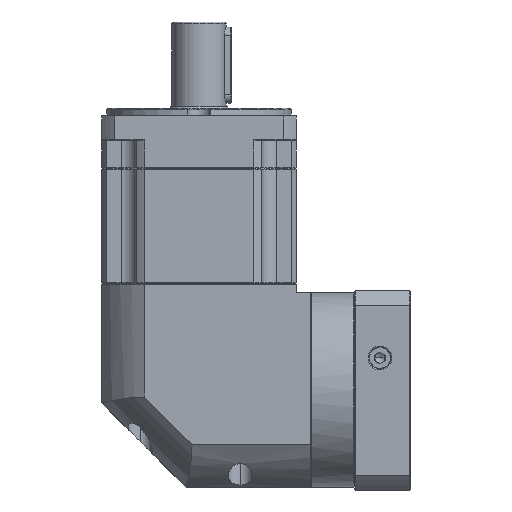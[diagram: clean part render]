
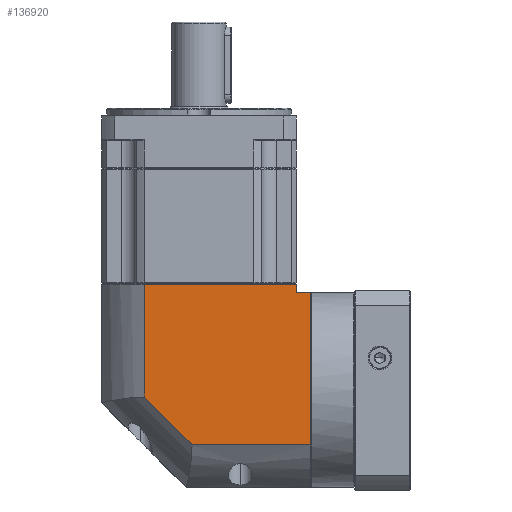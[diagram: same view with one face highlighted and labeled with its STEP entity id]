
A CAD part, left-side view. The second image highlights one B-rep face of the part: STEP entity #136920.
In plain terms, the highlighted planar face has unit normal (-1, 0, 0).
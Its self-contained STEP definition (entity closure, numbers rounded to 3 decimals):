
#3227 = CARTESIAN_POINT ( 'NONE',  ( 25.145, -18.587, 237.9 ) ) ;
#6134 = VECTOR ( 'NONE', #60761, 1000. ) ;
#6935 = EDGE_CURVE ( 'NONE', #161826, #92760, #61491, .T. ) ;
#9004 = EDGE_CURVE ( 'NONE', #49683, #89644, #114916, .T. ) ;
#10484 = LINE ( 'NONE', #70674, #153602 ) ;
#10804 = LINE ( 'NONE', #111931, #82350 ) ;
#13296 = CARTESIAN_POINT ( 'NONE',  ( 25.145, 96.413, 249.4 ) ) ;
#20734 = CARTESIAN_POINT ( 'NONE',  ( 25.145, 71.313, 176.338 ) ) ;
#26888 = DIRECTION ( 'NONE',  ( 0., 1., 0. ) ) ;
#28209 = VERTEX_POINT ( 'NONE', #157358 ) ;
#28617 = DIRECTION ( 'NONE',  ( 0., 1., 0. ) ) ;
#30928 = ORIENTED_EDGE ( 'NONE', *, *, #85369, .F. ) ;
#39859 = PLANE ( 'NONE',  #130512 ) ;
#40866 = DIRECTION ( 'NONE',  ( 0., 1., 0. ) ) ;
#42338 = ORIENTED_EDGE ( 'NONE', *, *, #122392, .T. ) ;
#44483 = CARTESIAN_POINT ( 'NONE',  ( 25.145, -26.987, 237.9 ) ) ;
#47280 = VERTEX_POINT ( 'NONE', #61847 ) ;
#48946 = CARTESIAN_POINT ( 'NONE',  ( 25.145, 96.413, 242.9 ) ) ;
#49683 = VERTEX_POINT ( 'NONE', #44483 ) ;
#50627 = ORIENTED_EDGE ( 'NONE', *, *, #9004, .T. ) ;
#52902 = CARTESIAN_POINT ( 'NONE',  ( 25.145, -26.987, 148. ) ) ;
#59490 = ORIENTED_EDGE ( 'NONE', *, *, #80736, .F. ) ;
#60761 = DIRECTION ( 'NONE',  ( 0., 0., 1. ) ) ;
#61491 = LINE ( 'NONE', #72555, #133008 ) ;
#61847 = CARTESIAN_POINT ( 'NONE',  ( 25.145, -18.587, 242.9 ) ) ;
#62919 = VERTEX_POINT ( 'NONE', #20734 ) ;
#67547 = LINE ( 'NONE', #104709, #134887 ) ;
#67579 = ORIENTED_EDGE ( 'NONE', *, *, #136402, .F. ) ;
#70674 = CARTESIAN_POINT ( 'NONE',  ( 25.145, -26.987, 249.4 ) ) ;
#70703 = DIRECTION ( 'NONE',  ( 0., 0., 1. ) ) ;
#71343 = ORIENTED_EDGE ( 'NONE', *, *, #6935, .F. ) ;
#72555 = CARTESIAN_POINT ( 'NONE',  ( 25.145, 96.413, 148. ) ) ;
#75940 = DIRECTION ( 'NONE',  ( 0., -1., 0. ) ) ;
#80736 = EDGE_CURVE ( 'NONE', #49683, #161826, #10484, .T. ) ;
#82350 = VECTOR ( 'NONE', #70703, 1000. ) ;
#83249 = VECTOR ( 'NONE', #28617, 1000. ) ;
#85369 = EDGE_CURVE ( 'NONE', #92760, #62919, #67547, .T. ) ;
#89034 = EDGE_LOOP ( 'NONE', ( #122073, #30928, #71343, #59490, #50627, #42338, #67579 ) ) ;
#89644 = VERTEX_POINT ( 'NONE', #3227 ) ;
#92760 = VERTEX_POINT ( 'NONE', #133555 ) ;
#104104 = EDGE_CURVE ( 'NONE', #62919, #28209, #149178, .T. ) ;
#104709 = CARTESIAN_POINT ( 'NONE',  ( 25.145, 42.975, 148. ) ) ;
#107481 = DIRECTION ( 'NONE',  ( 1., 0., 0. ) ) ;
#110767 = DIRECTION ( 'NONE',  ( 0., 0., -1. ) ) ;
#111931 = CARTESIAN_POINT ( 'NONE',  ( 25.145, -18.587, 122.9 ) ) ;
#112315 = VECTOR ( 'NONE', #75940, 1000. ) ;
#114916 = LINE ( 'NONE', #136150, #83249 ) ;
#118215 = DIRECTION ( 'NONE',  ( 0., 0.707, 0.707 ) ) ;
#122073 = ORIENTED_EDGE ( 'NONE', *, *, #104104, .F. ) ;
#122392 = EDGE_CURVE ( 'NONE', #89644, #47280, #10804, .T. ) ;
#130512 = AXIS2_PLACEMENT_3D ( 'NONE', #13296, #107481, #26888 ) ;
#130803 = FACE_OUTER_BOUND ( 'NONE', #89034, .T. ) ;
#133008 = VECTOR ( 'NONE', #40866, 1000. ) ;
#133555 = CARTESIAN_POINT ( 'NONE',  ( 25.145, 42.975, 148. ) ) ;
#134887 = VECTOR ( 'NONE', #118215, 1000. ) ;
#136150 = CARTESIAN_POINT ( 'NONE',  ( 25.145, -18.587, 237.9 ) ) ;
#136402 = EDGE_CURVE ( 'NONE', #28209, #47280, #147975, .T. ) ;
#136920 = ADVANCED_FACE ( 'NONE', ( #130803 ), #39859, .F. ) ;
#147975 = LINE ( 'NONE', #48946, #112315 ) ;
#149178 = LINE ( 'NONE', #168373, #6134 ) ;
#153602 = VECTOR ( 'NONE', #110767, 1000. ) ;
#157358 = CARTESIAN_POINT ( 'NONE',  ( 25.145, 71.313, 242.9 ) ) ;
#161826 = VERTEX_POINT ( 'NONE', #52902 ) ;
#168373 = CARTESIAN_POINT ( 'NONE',  ( 25.145, 71.313, 249.4 ) ) ;
